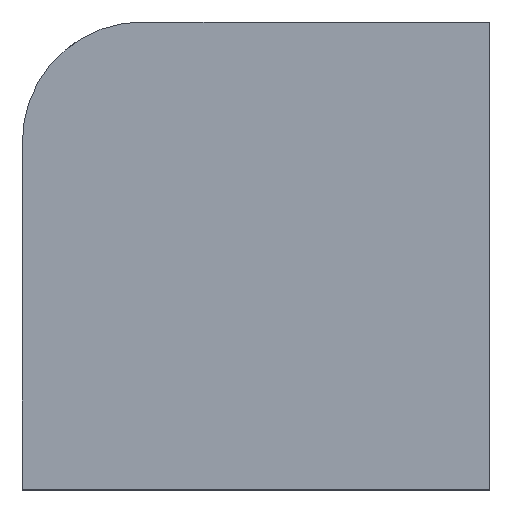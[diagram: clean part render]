
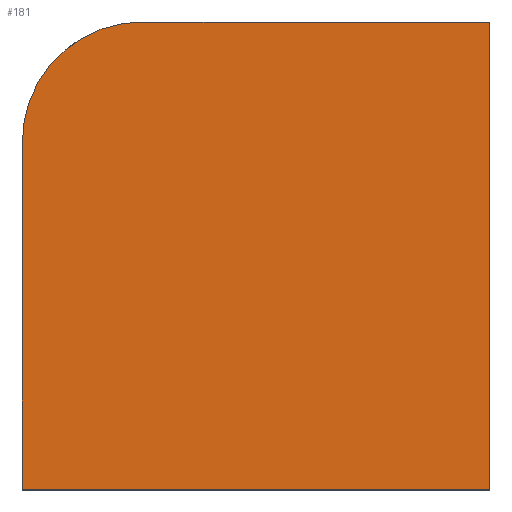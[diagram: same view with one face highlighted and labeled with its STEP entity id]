
A CAD part, top view. The second image highlights one B-rep face of the part: STEP entity #181.
In plain terms, the highlighted planar face has unit normal (0, 0, 1).
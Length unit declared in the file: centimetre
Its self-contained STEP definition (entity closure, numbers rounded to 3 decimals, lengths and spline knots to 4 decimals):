
#9 = CARTESIAN_POINT ( 'NONE',  ( 0., 0., 1000. ) ) ;
#11 = ORIENTED_EDGE ( 'NONE', *, *, #224, .T. ) ;
#13 = CARTESIAN_POINT ( 'NONE',  ( 0., 744.2891, 1000. ) ) ;
#25 = DIRECTION ( 'NONE',  ( 1., 0., 0. ) ) ;
#34 = VERTEX_POINT ( 'NONE', #277 ) ;
#37 = VERTEX_POINT ( 'NONE', #332 ) ;
#65 = DIRECTION ( 'NONE',  ( 1., 0., 0. ) ) ;
#69 = ORIENTED_EDGE ( 'NONE', *, *, #254, .T. ) ;
#93 = VECTOR ( 'NONE', #535, 100. ) ;
#102 = PLANE ( 'NONE',  #320 ) ;
#123 = VERTEX_POINT ( 'NONE', #508 ) ;
#126 = ORIENTED_EDGE ( 'NONE', *, *, #369, .T. ) ;
#150 = CARTESIAN_POINT ( 'NONE',  ( 0., 0., 1000. ) ) ;
#158 = LINE ( 'NONE', #201, #93 ) ;
#162 = VERTEX_POINT ( 'NONE', #9 ) ;
#168 = VERTEX_POINT ( 'NONE', #13 ) ;
#172 = VECTOR ( 'NONE', #375, 100. ) ;
#181 = ADVANCED_FACE ( 'NONE', ( #394 ), #102, .T. ) ;
#184 = EDGE_CURVE ( 'NONE', #34, #123, #444, .T. ) ;
#195 = DIRECTION ( 'NONE',  ( 0., 1., 0. ) ) ;
#201 = CARTESIAN_POINT ( 'NONE',  ( 0., 1000., 1000. ) ) ;
#207 = CARTESIAN_POINT ( 'NONE',  ( 0., 0., 1000. ) ) ;
#224 = EDGE_CURVE ( 'NONE', #37, #168, #511, .T. ) ;
#230 = CARTESIAN_POINT ( 'NONE',  ( 255.7109, 744.2891, 1000. ) ) ;
#254 = EDGE_CURVE ( 'NONE', #123, #37, #518, .T. ) ;
#261 = EDGE_LOOP ( 'NONE', ( #69, #11, #126, #470, #493 ) ) ;
#270 = VECTOR ( 'NONE', #366, 100. ) ;
#277 = CARTESIAN_POINT ( 'NONE',  ( 1000., 0., 1000. ) ) ;
#283 = VECTOR ( 'NONE', #195, 100. ) ;
#318 = CARTESIAN_POINT ( 'NONE',  ( 0., 1000., 1000. ) ) ;
#320 = AXIS2_PLACEMENT_3D ( 'NONE', #150, #363, #65 ) ;
#332 = CARTESIAN_POINT ( 'NONE',  ( 255.7109, 1000., 1000. ) ) ;
#344 = EDGE_CURVE ( 'NONE', #162, #34, #407, .T. ) ;
#363 = DIRECTION ( 'NONE',  ( 0., 0., 1. ) ) ;
#366 = DIRECTION ( 'NONE',  ( -1., 0., 0. ) ) ;
#369 = EDGE_CURVE ( 'NONE', #168, #162, #158, .T. ) ;
#375 = DIRECTION ( 'NONE',  ( 1., 0., 0. ) ) ;
#394 = FACE_OUTER_BOUND ( 'NONE', #261, .T. ) ;
#395 = AXIS2_PLACEMENT_3D ( 'NONE', #230, #436, #25 ) ;
#396 = CARTESIAN_POINT ( 'NONE',  ( 1000., 1000., 1000. ) ) ;
#407 = LINE ( 'NONE', #207, #172 ) ;
#436 = DIRECTION ( 'NONE',  ( 0., 0., 1. ) ) ;
#444 = LINE ( 'NONE', #396, #283 ) ;
#470 = ORIENTED_EDGE ( 'NONE', *, *, #344, .T. ) ;
#493 = ORIENTED_EDGE ( 'NONE', *, *, #184, .T. ) ;
#508 = CARTESIAN_POINT ( 'NONE',  ( 1000., 1000., 1000. ) ) ;
#511 = CIRCLE ( 'NONE', #395, 255.7109 ) ;
#518 = LINE ( 'NONE', #318, #270 ) ;
#535 = DIRECTION ( 'NONE',  ( 0., -1., 0. ) ) ;
